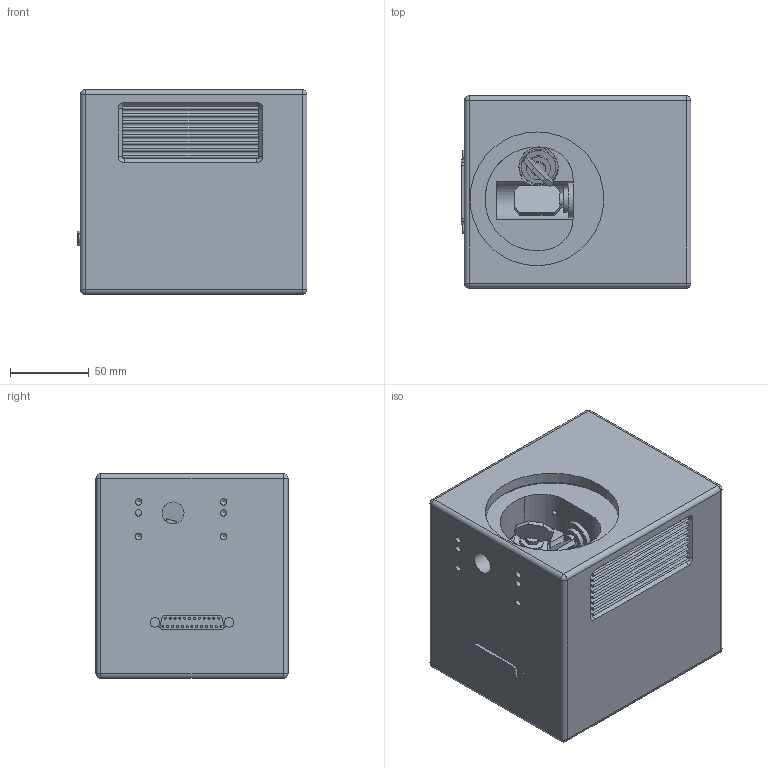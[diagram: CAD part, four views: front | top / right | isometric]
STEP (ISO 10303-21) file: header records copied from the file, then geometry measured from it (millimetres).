
FILE_DESCRIPTION( ( 'STEP AP203' ), '1' );
FILE_NAME( 'E:/一体化电机/外形尺寸说明书/14mm光电系列/14mm一拖二方头(发客户3D).stp', '2015-06-23T03:06:30', ( ' ' ), ( ' ' ), 'XStep 1.0', ' ', ' ' );
FILE_SCHEMA( ( 'CONFIG_CONTROL_DESIGN) ( )' ) );
Length unit declared in the file: metre
Products named in the file (2): 1; 2
Bounding box: 146.1 x 122 x 130 mm (x, y, z)
Volume: 1764297.5 mm3; surface area: 184312.9 mm2
Topology: 2 solids, 2 shells, 373 faces, 903 edges, 570 vertices
Faces by surface type: plane 213, cylinder 128, cone 24, sphere 8
Full cylindrical faces by diameter (mm): 1.3 x25, 2.013 x4, 2.459 x1, 3.242 x8, 4 x2, 4.134 x4, 6 x2, 14 x1, 15.14 x2, 22 x2, 25 x2, 38 x2, 39 x1, 85 x1, 86.5 x1
Entity records: 10408 total; most frequent: CARTESIAN_POINT 2003, DIRECTION 1770, ORIENTED_EDGE 1552, EDGE_CURVE 776, AXIS2_PLACEMENT_3D 640, VERTEX_POINT 541, EDGE_LOOP 495, LINE 490
